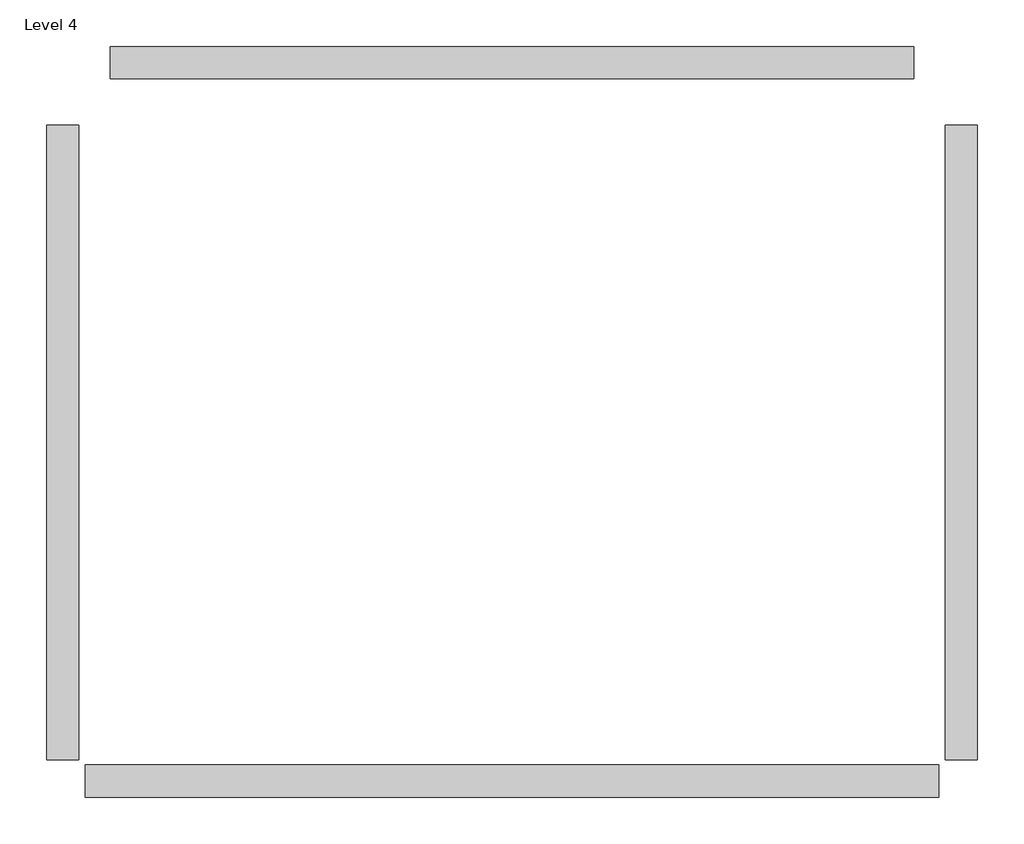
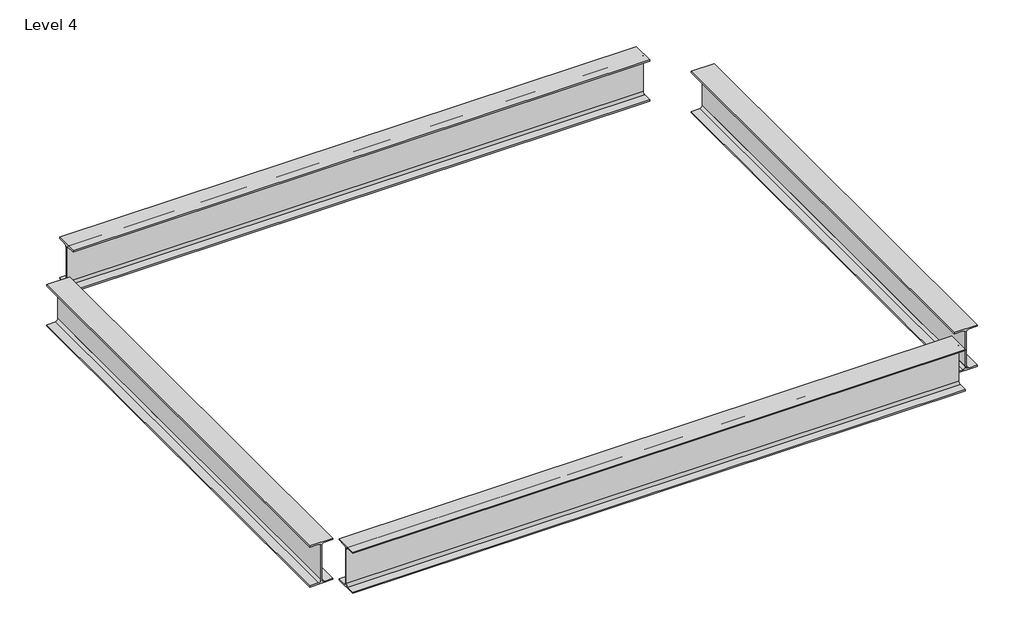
# One storey: 4 beams.
"""IFC4 building model written with IfcOpenShell, lengths in millimetres."""

import ifcopenshell
import ifcopenshell.guid

model = None  # the IFC model being written
_history = None  # IfcOwnerHistory: only IFC2X3 demands one
_inside = {}  # id of a spatial element -> (the spatial element, [elements in it])
_under = {}  # id of a project, library or spatial element -> (it, [spatial elements below it])
_declared = {}  # id of a project -> (the project, [libraries it declares])
_typed = {}  # id of a type object -> (the type object, [elements of that type])
_made_of = {}  # id of a material, layer set ... -> (it, [elements and type objects made of it])


def new_model(schema):
    """Start an empty IFC model of exactly this schema.

    Asked for "IFC4X3", IfcOpenShell would pick the latest addendum, in which some entities
    have other attributes; the version numbers below select the first issue.
    IFC2X3 requires an IfcOwnerHistory on every rooted entity: one is made here for all.
    """
    global model, _history
    if schema == "IFC4X3":
        model = ifcopenshell.file(schema_version=(4, 3, 0, 0))
    else:
        model = ifcopenshell.file(schema=schema)
    _inside.clear()
    _under.clear()
    _declared.clear()
    _typed.clear()
    _made_of.clear()
    _history = None
    if model.schema == "IFC2X3":
        org = make("IfcOrganization", Name="unknown")
        user = make(
            "IfcPersonAndOrganization",
            ThePerson=make("IfcPerson", FamilyName="unknown"),
            TheOrganization=org,
        )
        app = make(
            "IfcApplication",
            ApplicationDeveloper=org,
            Version="unknown",
            ApplicationFullName="unknown",
            ApplicationIdentifier="unknown",
        )
        _history = make(
            "IfcOwnerHistory",
            OwningUser=user,
            OwningApplication=app,
            ChangeAction="ADDED",
            CreationDate=0,
        )
    return model


def make(cls, **values):
    """One entity of the class cls with the attributes given. An attribute that is None is left unset."""
    return model.create_entity(
        cls, **{name: value for name, value in values.items() if value is not None}
    )


def rooted(cls, **values):
    """An entity with a GlobalId (a new one), such as an element, a storey or a relation."""
    return make(cls, GlobalId=ifcopenshell.guid.new(), OwnerHistory=_history, **values)


def si_unit(unit_type, name, prefix=None):
    """IfcSIUnit, for example si_unit("LENGTHUNIT", "METRE", prefix="MILLI")."""
    return make("IfcSIUnit", UnitType=unit_type, Prefix=prefix, Name=name)


def assignment(units):
    """IfcUnitAssignment: the units of a project."""
    return None if units is None else make("IfcUnitAssignment", Units=units)


def point(xyz):
    """IfcCartesianPoint."""
    return None if xyz is None else make("IfcCartesianPoint", Coordinates=xyz)


def direction(xyz):
    """IfcDirection."""
    return None if xyz is None else make("IfcDirection", DirectionRatios=xyz)


def frame(location, z_axis=None, x_axis=None):
    """IfcAxis2Placement3D, a coordinate frame: its origin and axes. An axis left out is left unset."""
    return make(
        "IfcAxis2Placement3D",
        Location=point(location),
        Axis=direction(z_axis),
        RefDirection=direction(x_axis),
    )


def frame_2d(location, x_axis=None):
    """IfcAxis2Placement2D, a coordinate frame in the plane: its origin and x axis."""
    return make(
        "IfcAxis2Placement2D", Location=point(location), RefDirection=direction(x_axis)
    )


def origin():
    """The frame at (0, 0, 0) with its axes left unset."""
    return frame((0.0, 0.0, 0.0))


def place(relative_to, where):
    """IfcLocalPlacement: puts the frame where relative to a parent placement (None: the world)."""
    return make(
        "IfcLocalPlacement", PlacementRelTo=relative_to, RelativePlacement=where
    )


def context(
    kind, dimensions, precision=None, world=None, true_north=None, identifier=None
):
    """IfcGeometricRepresentationContext, for example the 3D "Model" context."""
    return make(
        "IfcGeometricRepresentationContext",
        ContextIdentifier=identifier,
        ContextType=kind,
        CoordinateSpaceDimension=dimensions,
        Precision=precision,
        WorldCoordinateSystem=world,
        TrueNorth=true_north,
    )


def project(units=None, contexts=None):
    """IfcProject with its units and contexts."""
    return rooted(
        "IfcProject",
        Name="project",
        RepresentationContexts=contexts,
        UnitsInContext=assignment(units),
    )


def spatial(cls, under=None, at=None, **own):
    """A site, building, storey or space (cls), placed at a placement, below another one or the project."""
    s = rooted(cls, ObjectPlacement=at, **own)
    if under is not None:
        _under.setdefault(under.id(), (under, []))[1].append(s)
    return s


def polyline(points):
    """IfcPolyline through the points."""
    return make("IfcPolyline", Points=[point(p) for p in points])


def circle_curve(where, radius):
    """IfcCircle in the frame where."""
    return make("IfcCircle", Position=where, Radius=radius)


def trimmed(basis, trim1, trim2, sense, master):
    """IfcTrimmedCurve: the piece of a basis curve between two trims."""
    return make(
        "IfcTrimmedCurve",
        BasisCurve=basis,
        Trim1=trim1,
        Trim2=trim2,
        SenseAgreement=sense,
        MasterRepresentation=master,
    )


def segment(curve, same_sense, transition):
    """IfcCompositeCurveSegment."""
    return make(
        "IfcCompositeCurveSegment",
        Transition=transition,
        SameSense=same_sense,
        ParentCurve=curve,
    )


def composite_curve(segments, self_intersect=None):
    """IfcCompositeCurve: segments joined end to end."""
    return make("IfcCompositeCurve", Segments=segments, SelfIntersect=self_intersect)


def outline(outer, holes=None, kind="AREA"):
    """IfcArbitraryClosedProfileDef: a profile drawn as a closed curve; with holes, ...WithVoids."""
    if holes is None:
        return make("IfcArbitraryClosedProfileDef", ProfileType=kind, OuterCurve=outer)
    return make(
        "IfcArbitraryProfileDefWithVoids",
        ProfileType=kind,
        OuterCurve=outer,
        InnerCurves=holes,
    )


def extrude(swept, where, along, depth):
    """IfcExtrudedAreaSolid: the profile swept, set in the frame where, extruded along a direction by depth."""
    return make(
        "IfcExtrudedAreaSolid",
        SweptArea=swept,
        Position=where,
        ExtrudedDirection=direction(along),
        Depth=depth,
    )


def shape(context_of_items, identifier, shape_type, items):
    """IfcShapeRepresentation: the items that make up one representation, for example the "Body"."""
    return make(
        "IfcShapeRepresentation",
        ContextOfItems=context_of_items,
        RepresentationIdentifier=identifier,
        RepresentationType=shape_type,
        Items=items,
    )


def source(mapping_origin, context_of_items, identifier, shape_type, items):
    """IfcRepresentationMap: a shape defined once, which mapped items show again and again."""
    return make(
        "IfcRepresentationMap",
        MappingOrigin=mapping_origin,
        MappedRepresentation=shape(context_of_items, identifier, shape_type, items),
    )


def transform(
    local_origin,
    x_axis=None,
    y_axis=None,
    z_axis=None,
    scale=None,
    scale2=None,
    scale3=None,
    uniform=True,
):
    """IfcCartesianTransformationOperator3D, or its non-uniform kind. x_axis, y_axis, z_axis: its Axis1, 2, 3."""
    if uniform:
        return make(
            "IfcCartesianTransformationOperator3D",
            Axis1=direction(x_axis),
            Axis2=direction(y_axis),
            LocalOrigin=point(local_origin),
            Scale=scale,
            Axis3=direction(z_axis),
        )
    return make(
        "IfcCartesianTransformationOperator3DnonUniform",
        Axis1=direction(x_axis),
        Axis2=direction(y_axis),
        LocalOrigin=point(local_origin),
        Scale=scale,
        Axis3=direction(z_axis),
        Scale2=scale2,
        Scale3=scale3,
    )


def mapped(mapping_source, mapping_target):
    """IfcMappedItem: shows the shape of a source again, moved by a transform."""
    return make(
        "IfcMappedItem", MappingSource=mapping_source, MappingTarget=mapping_target
    )


def made_of(thing, what):
    """Note that an element or type object is made of a material, layer set ...; save() writes the relation."""
    if what is not None:
        _made_of.setdefault(what.id(), (what, []))[1].append(thing)
    return thing


def element(
    cls,
    number,
    at=None,
    inside=None,
    cuts=None,
    type_object=None,
    material=None,
    context=None,
    identifier="Body",
    shape_type=None,
    held_by="IfcProductDefinitionShape",
    body=None,
    shapes=None,
    **own,
):
    """One element of the class cls, such as IfcWall. Its Tag is "e" and its number.

    at: its placement. inside: the storey or other place that contains it. cuts: it is an
    opening in that element (IfcRelVoidsElement). A single representation is given by context,
    identifier, shape_type and body (its items); several are given by shapes. held_by: the class
    of the entity that holds the representations. save() writes the other relations.
    """
    e = rooted(cls, Tag="e%d" % number, ObjectPlacement=at, **own)
    if body is not None:
        shapes = [shape(context, identifier, shape_type, body)]
    if shapes is not None:
        e.Representation = make(held_by, Representations=shapes)
    if inside is not None:
        _inside.setdefault(inside.id(), (inside, []))[1].append(e)
    if cuts is not None:
        rooted(
            "IfcRelVoidsElement", RelatingBuildingElement=cuts, RelatedOpeningElement=e
        )
    if type_object is not None:
        _typed.setdefault(type_object.id(), (type_object, []))[1].append(e)
    return made_of(e, material)


def aggregate(whole, parts):
    """IfcRelAggregates: a whole, such as a stair, and the parts it consists of."""
    return rooted("IfcRelAggregates", RelatingObject=whole, RelatedObjects=parts)


def save(model, path):
    """Write the relations noted so far, then the file.

    IfcRelAggregates (storeys below a building ...), IfcRelContainedInSpatialStructure (elements
    in a storey), IfcRelDefinesByType, IfcRelAssociatesMaterial and IfcRelDeclares: one each for
    every whole, place, type object, material and project.
    """
    for whole, parts in _under.values():
        aggregate(whole, parts)
    for where, things in _inside.values():
        rooted(
            "IfcRelContainedInSpatialStructure",
            RelatedElements=things,
            RelatingStructure=where,
        )
    for kind, things in _typed.values():
        rooted("IfcRelDefinesByType", RelatedObjects=things, RelatingType=kind)
    for what, things in _made_of.values():
        rooted("IfcRelAssociatesMaterial", RelatedObjects=things, RelatingMaterial=what)
    for by, libraries in _declared.values():
        rooted("IfcRelDeclares", RelatingContext=by, RelatedDefinitions=libraries)
    model.write(path)


def w_wide_flange_w12x26_f50af644(model_context):
    return source(origin(), model_context, "Body", "SweptSolid", [
        extrude(outline(composite_curve([segment(polyline([(82.4011719, -145.5539063), (82.4011719, -155.178125), (-82.4011719, -155.178125), (-82.4011719, -145.5539063), (-20.2902344, -145.5539063)]), True, "CONTINUOUS"), segment(trimmed(circle_curve(frame_2d((-20.2902344, -128.190625)), 17.3632812), [point((-20.2902344, -145.5539063))], [point((-2.9269531, -128.190625))], True, "CARTESIAN"), True, "CONTINUOUS"), segment(polyline([(-2.9269531, -128.190625), (-2.9269531, 128.190625)]), True, "CONTINUOUS"), segment(trimmed(circle_curve(frame_2d((-20.2902344, 128.190625)), 17.3632812), [point((-2.9269531, 128.190625))], [point((-20.2902344, 145.5539062))], True, "CARTESIAN"), True, "CONTINUOUS"), segment(polyline([(-20.2902344, 145.5539062), (-82.4011719, 145.5539062), (-82.4011719, 155.178125), (82.4011719, 155.178125), (82.4011719, 145.5539062), (20.2902344, 145.5539062)]), True, "CONTINUOUS"), segment(trimmed(circle_curve(frame_2d((20.2902344, 128.190625)), 17.3632812), [point((20.2902344, 145.5539062))], [point((2.9269531, 128.190625))], True, "CARTESIAN"), True, "CONTINUOUS"), segment(polyline([(2.9269531, 128.190625), (2.9269531, -128.190625)]), True, "CONTINUOUS"), segment(trimmed(circle_curve(frame_2d((20.2902344, -128.190625)), 17.3632812), [point((2.9269531, -128.190625))], [point((20.2902344, -145.5539063))], True, "CARTESIAN"), True, "CONTINUOUS"), segment(polyline([(20.2902344, -145.5539063), (82.4011719, -145.5539063)]), True, "CONTINUOUS")], self_intersect=False)), frame((-2044.7, 0.0, 0.0), z_axis=(1.0, 0.0, 0.0), x_axis=(0.0, 1.0, 0.0)), (0.0, 0.0, 1.0), 4089.4),
    ])


def w_wide_flange_w12x26_e5a7b397(model_context):
    return source(origin(), model_context, "Body", "SweptSolid", [
        extrude(outline(composite_curve([segment(polyline([(82.4011719, -145.5539063), (82.4011719, -155.178125), (-82.4011719, -155.178125), (-82.4011719, -145.5539063), (-20.2902344, -145.5539063)]), True, "CONTINUOUS"), segment(trimmed(circle_curve(frame_2d((-20.2902344, -128.190625)), 17.3632812), [point((-20.2902344, -145.5539063))], [point((-2.9269531, -128.190625))], True, "CARTESIAN"), True, "CONTINUOUS"), segment(polyline([(-2.9269531, -128.190625), (-2.9269531, 128.190625)]), True, "CONTINUOUS"), segment(trimmed(circle_curve(frame_2d((-20.2902344, 128.190625)), 17.3632812), [point((-2.9269531, 128.190625))], [point((-20.2902344, 145.5539062))], True, "CARTESIAN"), True, "CONTINUOUS"), segment(polyline([(-20.2902344, 145.5539062), (-82.4011719, 145.5539062), (-82.4011719, 155.178125), (82.4011719, 155.178125), (82.4011719, 145.5539062), (20.2902344, 145.5539062)]), True, "CONTINUOUS"), segment(trimmed(circle_curve(frame_2d((20.2902344, 128.190625)), 17.3632812), [point((20.2902344, 145.5539062))], [point((2.9269531, 128.190625))], True, "CARTESIAN"), True, "CONTINUOUS"), segment(polyline([(2.9269531, 128.190625), (2.9269531, -128.190625)]), True, "CONTINUOUS"), segment(trimmed(circle_curve(frame_2d((20.2902344, -128.190625)), 17.3632812), [point((2.9269531, -128.190625))], [point((20.2902344, -145.5539063))], True, "CARTESIAN"), True, "CONTINUOUS"), segment(polyline([(20.2902344, -145.5539063), (82.4011719, -145.5539063)]), True, "CONTINUOUS")], self_intersect=False)), frame((-2172.1960937, 0.0, 0.0), z_axis=(1.0, 0.0, 0.0), x_axis=(0.0, 1.0, 0.0)), (0.0, 0.0, 1.0), 4344.3921875),
    ])


def w_wide_flange_w12x26_0a57dafe(model_context):
    return source(origin(), model_context, "Body", "SweptSolid", [
        extrude(outline(composite_curve([segment(polyline([(82.4011719, -145.5539063), (82.4011719, -155.178125), (-82.4011719, -155.178125), (-82.4011719, -145.5539063), (-20.2902344, -145.5539063)]), True, "CONTINUOUS"), segment(trimmed(circle_curve(frame_2d((-20.2902344, -128.190625)), 17.3632812), [point((-20.2902344, -145.5539063))], [point((-2.9269531, -128.190625))], True, "CARTESIAN"), True, "CONTINUOUS"), segment(polyline([(-2.9269531, -128.190625), (-2.9269531, 128.190625)]), True, "CONTINUOUS"), segment(trimmed(circle_curve(frame_2d((-20.2902344, 128.190625)), 17.3632812), [point((-2.9269531, 128.190625))], [point((-20.2902344, 145.5539062))], True, "CARTESIAN"), True, "CONTINUOUS"), segment(polyline([(-20.2902344, 145.5539062), (-82.4011719, 145.5539062), (-82.4011719, 155.178125), (82.4011719, 155.178125), (82.4011719, 145.5539062), (20.2902344, 145.5539062)]), True, "CONTINUOUS"), segment(trimmed(circle_curve(frame_2d((20.2902344, 128.190625)), 17.3632812), [point((20.2902344, 145.5539062))], [point((2.9269531, 128.190625))], True, "CARTESIAN"), True, "CONTINUOUS"), segment(polyline([(2.9269531, 128.190625), (2.9269531, -128.190625)]), True, "CONTINUOUS"), segment(trimmed(circle_curve(frame_2d((20.2902344, -128.190625)), 17.3632812), [point((2.9269531, -128.190625))], [point((20.2902344, -145.5539063))], True, "CARTESIAN"), True, "CONTINUOUS"), segment(polyline([(20.2902344, -145.5539063), (82.4011719, -145.5539063)]), True, "CONTINUOUS")], self_intersect=False)), frame((-1720.8826102, 0.0, 0.0), z_axis=(1.0, 0.0, 0.0), x_axis=(0.0, 1.0, 0.0)), (0.0, 0.0, 1.0), 3232.1826102),
    ])


model = new_model("IFC4")

# Units and contexts
model_context = context("Model", 3, world=origin())
ifc_project = project(units=[si_unit("LENGTHUNIT", "METRE", prefix="MILLI")], contexts=[model_context])

# Site, building, storey
site = spatial("IfcSite", under=ifc_project)
building = spatial("IfcBuilding", under=site)
storey = spatial("IfcBuildingStorey", under=building, Name="Level 4", Elevation=6096.0)

# Beams
placement = place(None, origin())
w_wide_flange_w12x26_shape = w_wide_flange_w12x26_f50af644(model_context)
element("IfcBeam", 1, ObjectType="W-Wide Flange : W12X26", at=placement, inside=storey, context=model_context, shape_type="MappedRepresentation", body=[
    mapped(w_wide_flange_w12x26_shape, transform((-15108.9871131, 10193.161515, 5940.821875), x_axis=(1.0, 0.0, 0.0), y_axis=(0.0, 1.0, 0.0), z_axis=(0.0, 0.0, 1.0))),
])
w_wide_flange_w12x26_2_shape = w_wide_flange_w12x26_e5a7b397(model_context)
element("IfcBeam", 2, ObjectType="W-Wide Flange : W12X26", at=placement, inside=storey, context=model_context, shape_type="MappedRepresentation", body=[
    mapped(w_wide_flange_w12x26_2_shape, transform((-15108.9871131, 6535.561515, 5940.821875), x_axis=(1.0, 0.0, 0.0), y_axis=(0.0, 1.0, 0.0), z_axis=(0.0, 0.0, 1.0))),
])
w_wide_flange_w12x26_3_shape = w_wide_flange_w12x26_0a57dafe(model_context)
element("IfcBeam", 3, ObjectType="W-Wide Flange : W12X26", at=placement, inside=storey, context=model_context, shape_type="MappedRepresentation", body=[
    mapped(w_wide_flange_w12x26_3_shape, transform((-17394.9871131, 8364.361515, 5940.821875), x_axis=(0.0, 1.0, 0.0), y_axis=(-1.0, 0.0, 0.0), z_axis=(0.0, 0.0, 1.0))),
])
element("IfcBeam", 4, ObjectType="W-Wide Flange : W12X26", at=placement, inside=storey, context=model_context, shape_type="MappedRepresentation", body=[
    mapped(w_wide_flange_w12x26_3_shape, transform((-12822.9871131, 8364.361515, 5940.821875), x_axis=(0.0, 1.0, 0.0), y_axis=(-1.0, 0.0, 0.0), z_axis=(0.0, 0.0, 1.0))),
])

save(model, "model.ifc")
